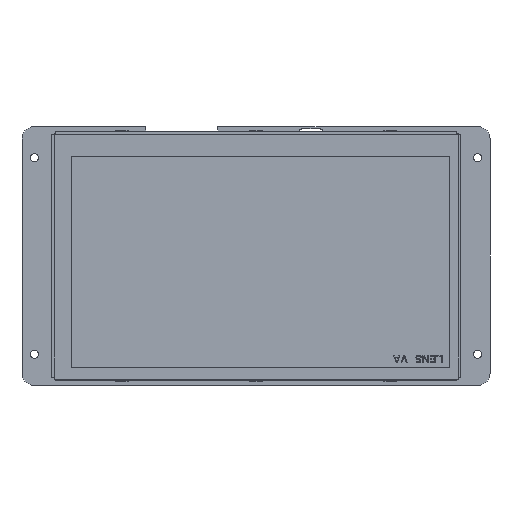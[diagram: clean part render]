
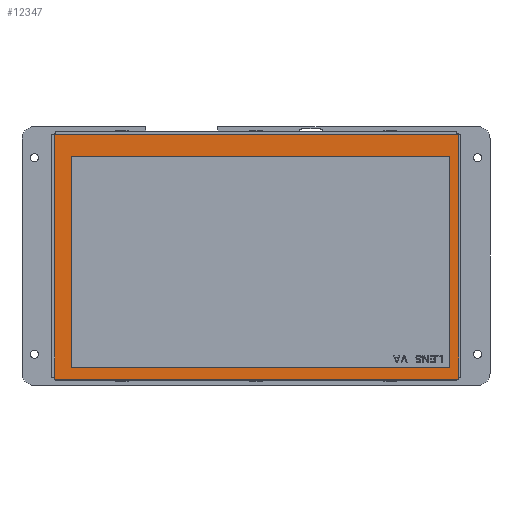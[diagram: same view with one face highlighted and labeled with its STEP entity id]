
A CAD part, front view. The second image highlights one B-rep face of the part: STEP entity #12347.
In plain terms, the highlighted planar face has unit normal (0, -1, 0) as drawn and (0, 1, 0) by its records, which use the part's own axes.
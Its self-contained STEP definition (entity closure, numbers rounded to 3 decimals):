
#10558=DIRECTION('',(0.,0.,1.));
#10559=VECTOR('',#10558,99.7);
#10560=CARTESIAN_POINT('',(-82.3,1.775,-49.85));
#10561=LINE('',#10560,#10559);
#10562=DIRECTION('',(-1.,0.,0.));
#10563=VECTOR('',#10562,164.6);
#10564=CARTESIAN_POINT('',(82.3,1.775,-49.85));
#10565=LINE('',#10564,#10563);
#10566=DIRECTION('',(0.,0.,-1.));
#10567=VECTOR('',#10566,99.7);
#10568=CARTESIAN_POINT('',(82.3,1.775,49.85));
#10569=LINE('',#10568,#10567);
#10570=DIRECTION('',(1.,0.,0.));
#10571=VECTOR('',#10570,164.6);
#10572=CARTESIAN_POINT('',(-82.3,1.775,49.85));
#10573=LINE('',#10572,#10571);
#10574=DIRECTION('',(0.,0.,1.));
#10575=VECTOR('',#10574,85.92);
#10576=CARTESIAN_POINT('',(-78.53,1.775,-45.22));
#10577=LINE('',#10576,#10575);
#10578=DIRECTION('',(1.,0.,0.));
#10579=VECTOR('',#10578,154.08);
#10580=CARTESIAN_POINT('',(-78.53,1.775,40.7));
#10581=LINE('',#10580,#10579);
#10582=DIRECTION('',(0.,0.,-1.));
#10583=VECTOR('',#10582,85.92);
#10584=CARTESIAN_POINT('',(75.55,1.775,40.7));
#10585=LINE('',#10584,#10583);
#10586=DIRECTION('',(-1.,0.,0.));
#10587=VECTOR('',#10586,154.08);
#10588=CARTESIAN_POINT('',(75.55,1.775,-45.22));
#10589=LINE('',#10588,#10587);
#11830=CARTESIAN_POINT('',(-82.3,1.775,-49.85));
#11831=CARTESIAN_POINT('',(-82.3,1.775,49.85));
#11832=VERTEX_POINT('',#11830);
#11833=VERTEX_POINT('',#11831);
#11834=CARTESIAN_POINT('',(82.3,1.775,49.85));
#11835=VERTEX_POINT('',#11834);
#11836=CARTESIAN_POINT('',(82.3,1.775,-49.85));
#11837=VERTEX_POINT('',#11836);
#12046=CARTESIAN_POINT('',(-78.53,1.775,-45.22));
#12047=CARTESIAN_POINT('',(-78.53,1.775,40.7));
#12048=VERTEX_POINT('',#12046);
#12049=VERTEX_POINT('',#12047);
#12050=CARTESIAN_POINT('',(75.55,1.775,40.7));
#12051=VERTEX_POINT('',#12050);
#12052=CARTESIAN_POINT('',(75.55,1.775,-45.22));
#12053=VERTEX_POINT('',#12052);
#12326=CARTESIAN_POINT('',(0.,1.775,0.));
#12327=DIRECTION('',(0.,1.,0.));
#12328=DIRECTION('',(1.,0.,0.));
#12329=AXIS2_PLACEMENT_3D('',#12326,#12327,#12328);
#12330=PLANE('',#12329);
#12331=ORIENTED_EDGE('',*,*,#12278,.F.);
#12332=ORIENTED_EDGE('',*,*,#12293,.F.);
#12333=ORIENTED_EDGE('',*,*,#12307,.F.);
#12334=ORIENTED_EDGE('',*,*,#12320,.F.);
#12335=EDGE_LOOP('',(#12331,#12332,#12333,#12334));
#12336=FACE_OUTER_BOUND('',#12335,.F.);
#12338=ORIENTED_EDGE('',*,*,#12337,.T.);
#12340=ORIENTED_EDGE('',*,*,#12339,.T.);
#12342=ORIENTED_EDGE('',*,*,#12341,.T.);
#12344=ORIENTED_EDGE('',*,*,#12343,.T.);
#12345=EDGE_LOOP('',(#12338,#12340,#12342,#12344));
#12346=FACE_BOUND('',#12345,.F.);
#12278=EDGE_CURVE('',#11832,#11833,#10561,.T.);
#12293=EDGE_CURVE('',#11837,#11832,#10565,.T.);
#12307=EDGE_CURVE('',#11835,#11837,#10569,.T.);
#12320=EDGE_CURVE('',#11833,#11835,#10573,.T.);
#12337=EDGE_CURVE('',#12048,#12049,#10577,.T.);
#12339=EDGE_CURVE('',#12049,#12051,#10581,.T.);
#12341=EDGE_CURVE('',#12051,#12053,#10585,.T.);
#12343=EDGE_CURVE('',#12053,#12048,#10589,.T.);
#12347=ADVANCED_FACE('',(#12336,#12346),#12330,.T.);
